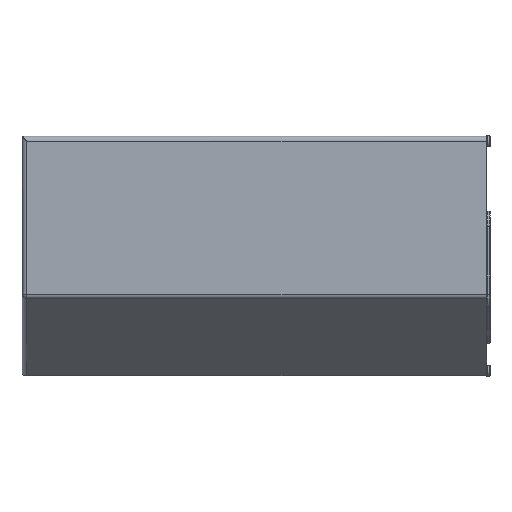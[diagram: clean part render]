
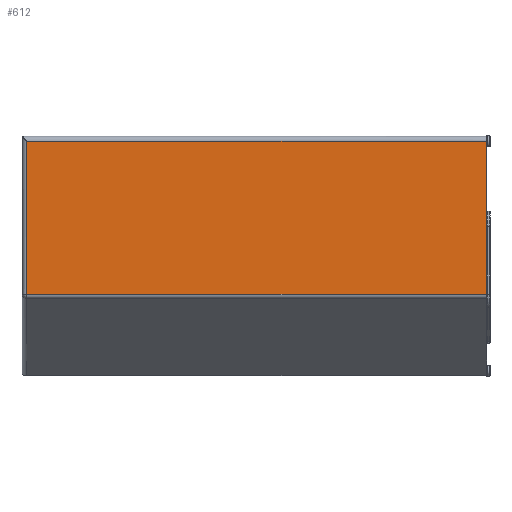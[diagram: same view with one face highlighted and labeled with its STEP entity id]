
A CAD part, left-side view. The second image highlights one B-rep face of the part: STEP entity #612.
In plain terms, the highlighted planar face has unit normal (-1, 0, 0).
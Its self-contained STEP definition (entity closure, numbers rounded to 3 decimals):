
#51 = CARTESIAN_POINT ( 'NONE',  ( -15., 1397., 461.8 ) ) ;
#156 = CARTESIAN_POINT ( 'NONE',  ( -15., 12., 461.8 ) ) ;
#337 = VERTEX_POINT ( 'NONE', #156 ) ;
#377 = ORIENTED_EDGE ( 'NONE', *, *, #1907, .F. ) ;
#455 = EDGE_CURVE ( 'NONE', #2643, #2288, #1352, .T. ) ;
#484 = VECTOR ( 'NONE', #1759, 1000. ) ;
#493 = EDGE_LOOP ( 'NONE', ( #1695, #2722, #377, #824 ) ) ;
#612 = ADVANCED_FACE ( 'NONE', ( #1203 ), #2113, .F. ) ;
#618 = VECTOR ( 'NONE', #652, 1000. ) ;
#630 = LINE ( 'NONE', #2688, #2873 ) ;
#652 = DIRECTION ( 'NONE',  ( 0., 0., -1. ) ) ;
#691 = VECTOR ( 'NONE', #1848, 1000. ) ;
#760 = LINE ( 'NONE', #2407, #484 ) ;
#824 = ORIENTED_EDGE ( 'NONE', *, *, #455, .T. ) ;
#937 = LINE ( 'NONE', #1838, #691 ) ;
#958 = CARTESIAN_POINT ( 'NONE',  ( -15., 1412., 0. ) ) ;
#1196 = CARTESIAN_POINT ( 'NONE',  ( -15., 1397., 0. ) ) ;
#1203 = FACE_OUTER_BOUND ( 'NONE', #493, .T. ) ;
#1352 = LINE ( 'NONE', #2303, #618 ) ;
#1590 = VERTEX_POINT ( 'NONE', #2312 ) ;
#1626 = EDGE_CURVE ( 'NONE', #1590, #337, #937, .T. ) ;
#1642 = DIRECTION ( 'NONE',  ( 0., 0., -1. ) ) ;
#1695 = ORIENTED_EDGE ( 'NONE', *, *, #2523, .T. ) ;
#1759 = DIRECTION ( 'NONE',  ( 0., -1., 0. ) ) ;
#1838 = CARTESIAN_POINT ( 'NONE',  ( -15., 12., 0. ) ) ;
#1848 = DIRECTION ( 'NONE',  ( 0., 0., 1. ) ) ;
#1907 = EDGE_CURVE ( 'NONE', #2643, #337, #760, .T. ) ;
#1921 = AXIS2_PLACEMENT_3D ( 'NONE', #958, #2341, #1642 ) ;
#2113 = PLANE ( 'NONE',  #1921 ) ;
#2288 = VERTEX_POINT ( 'NONE', #1196 ) ;
#2303 = CARTESIAN_POINT ( 'NONE',  ( -15., 1397., 0. ) ) ;
#2312 = CARTESIAN_POINT ( 'NONE',  ( -15., 12., 0. ) ) ;
#2341 = DIRECTION ( 'NONE',  ( 1., 0., 0. ) ) ;
#2407 = CARTESIAN_POINT ( 'NONE',  ( -15., 1412., 461.8 ) ) ;
#2502 = DIRECTION ( 'NONE',  ( 0., -1., 0. ) ) ;
#2523 = EDGE_CURVE ( 'NONE', #2288, #1590, #630, .T. ) ;
#2643 = VERTEX_POINT ( 'NONE', #51 ) ;
#2688 = CARTESIAN_POINT ( 'NONE',  ( -15., 1412., 0. ) ) ;
#2722 = ORIENTED_EDGE ( 'NONE', *, *, #1626, .T. ) ;
#2873 = VECTOR ( 'NONE', #2502, 1000. ) ;
